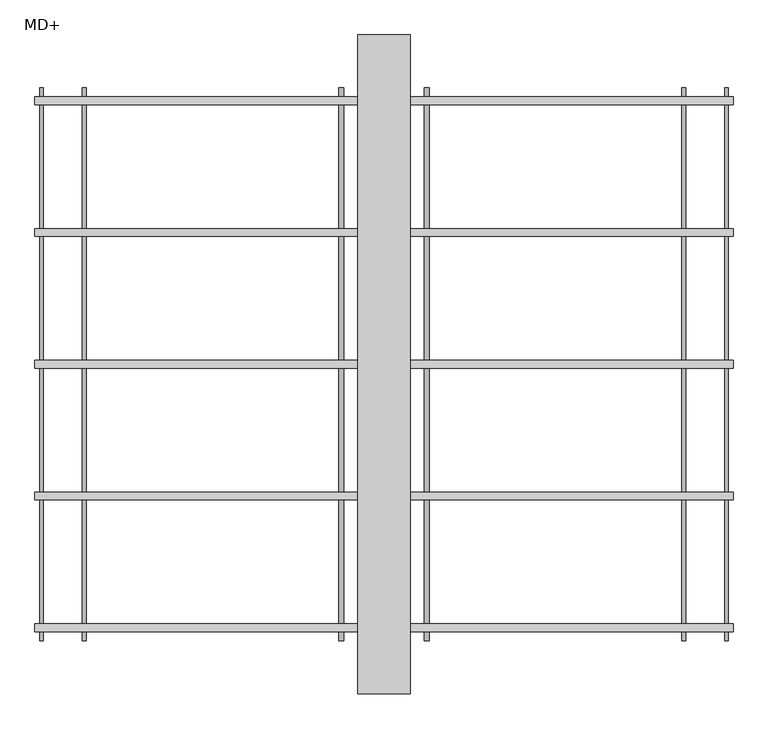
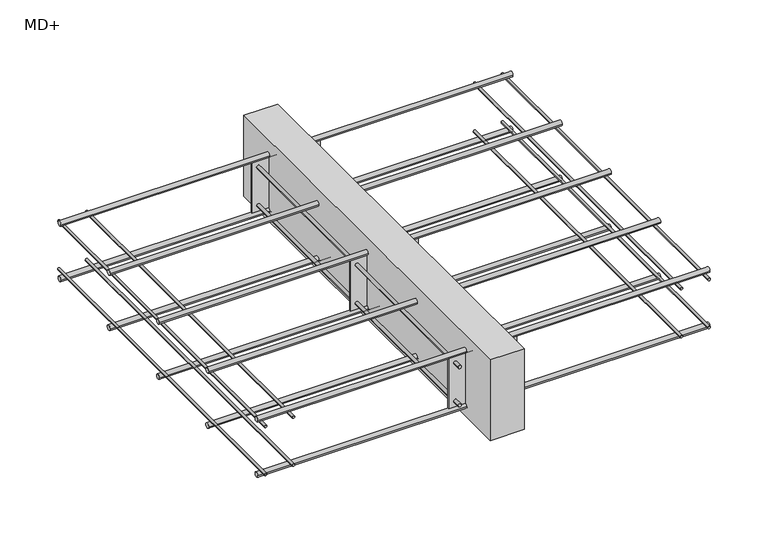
"""IFC4 building model written with IfcOpenShell, lengths in millimetres: proxy geometry, ACINOXplus_Typenreihe_M : MD+."""

from ifc_helpers import new_model, si_unit, point, frame, frame_2d, origin, place, context, project, spatial, polyline, circle_curve, trimmed, segment, composite_curve, outline, extrude, source, transform, mapped, element, save


def md_5e9233df(model_context):
    return source(origin(), model_context, "Body", "SweptSolid", [
        extrude(outline(polyline([(40.0, 500.0), (40.0, -500.0), (-40.0, -500.0), (-40.0, 500.0), (40.0, 500.0)])), frame((0.0, 0.0, -200.0), z_axis=(0.0, 0.0, 1.0), x_axis=(1.0, 0.0, 0.0)), (0.0, 0.0, 1.0), 200.0),
        extrude(outline(polyline([(80.0, 1.5), (80.0, -1.5), (-80.0, -1.5), (-80.0, 1.5), (80.0, 1.5)])), frame((0.0, 0.0, -167.0), z_axis=(0.0, 0.0, 1.0), x_axis=(1.0, 0.0, 0.0)), (0.0, 0.0, 1.0), 125.0),
        extrude(outline(polyline([(80.0, -398.5), (80.0, -401.5), (-80.0, -401.5), (-80.0, -398.5), (80.0, -398.5)])), frame((0.0, 0.0, -167.0), z_axis=(0.0, 0.0, 1.0), x_axis=(1.0, 0.0, 0.0)), (0.0, 0.0, 1.0), 125.0),
        extrude(outline(polyline([(80.0, 401.5), (80.0, 398.5), (-80.0, 398.5), (-80.0, 401.5), (80.0, 401.5)])), frame((0.0, 0.0, -167.0), z_axis=(0.0, 0.0, 1.0), x_axis=(1.0, 0.0, 0.0)), (0.0, 0.0, 1.0), 125.0),
        extrude(outline(composite_curve([segment(trimmed(circle_curve(frame_2d((-152.0, -65.0)), 4.0), [point((-152.0, -61.0))], [point((-152.0, -69.0))], False, "CARTESIAN"), True, "CONTINUOUS"), segment(trimmed(circle_curve(frame_2d((-152.0, -65.0)), 4.0), [point((-152.0, -69.0))], [point((-152.0, -61.0))], False, "CARTESIAN"), True, "CONTINUOUS")], self_intersect=False)), frame((0.0, -420.0, 0.0), z_axis=(0.0, 1.0, 0.0), x_axis=(0.0, 0.0, 1.0)), (0.0, 0.0, 1.0), 18.5),
        extrude(outline(composite_curve([segment(trimmed(circle_curve(frame_2d((-152.0, -65.0)), 4.0), [point((-152.0, -69.0))], [point((-152.0, -61.0))], False, "CARTESIAN"), True, "CONTINUOUS"), segment(trimmed(circle_curve(frame_2d((-152.0, -65.0)), 4.0), [point((-152.0, -61.0))], [point((-152.0, -69.0))], False, "CARTESIAN"), True, "CONTINUOUS")], self_intersect=False)), frame((0.0, -398.5, 0.0), z_axis=(0.0, 1.0, 0.0), x_axis=(0.0, 0.0, 1.0)), (0.0, 0.0, 1.0), 397.0),
        extrude(outline(composite_curve([segment(trimmed(circle_curve(frame_2d((-152.0, -65.0)), 4.0), [point((-152.0, -69.0))], [point((-152.0, -61.0))], False, "CARTESIAN"), True, "CONTINUOUS"), segment(trimmed(circle_curve(frame_2d((-152.0, -65.0)), 4.0), [point((-152.0, -61.0))], [point((-152.0, -69.0))], False, "CARTESIAN"), True, "CONTINUOUS")], self_intersect=False)), frame((0.0, 401.5, 0.0), z_axis=(0.0, 1.0, 0.0), x_axis=(0.0, 0.0, 1.0)), (0.0, 0.0, 1.0), 18.5),
        extrude(outline(composite_curve([segment(trimmed(circle_curve(frame_2d((-152.0, -65.0)), 4.0), [point((-152.0, -69.0))], [point((-152.0, -61.0))], False, "CARTESIAN"), True, "CONTINUOUS"), segment(trimmed(circle_curve(frame_2d((-152.0, -65.0)), 4.0), [point((-152.0, -61.0))], [point((-152.0, -69.0))], False, "CARTESIAN"), True, "CONTINUOUS")], self_intersect=False)), frame((0.0, 1.5, 0.0), z_axis=(0.0, 1.0, 0.0), x_axis=(0.0, 0.0, 1.0)), (0.0, 0.0, 1.0), 397.0),
        extrude(outline(composite_curve([segment(trimmed(circle_curve(frame_2d((-152.0, 65.0)), 4.0), [point((-152.0, 69.0))], [point((-152.0, 61.0))], False, "CARTESIAN"), True, "CONTINUOUS"), segment(trimmed(circle_curve(frame_2d((-152.0, 65.0)), 4.0), [point((-152.0, 61.0))], [point((-152.0, 69.0))], False, "CARTESIAN"), True, "CONTINUOUS")], self_intersect=False)), frame((0.0, -420.0, 0.0), z_axis=(0.0, 1.0, 0.0), x_axis=(0.0, 0.0, 1.0)), (0.0, 0.0, 1.0), 18.5),
        extrude(outline(composite_curve([segment(trimmed(circle_curve(frame_2d((-152.0, 65.0)), 4.0), [point((-152.0, 61.0))], [point((-152.0, 69.0))], False, "CARTESIAN"), True, "CONTINUOUS"), segment(trimmed(circle_curve(frame_2d((-152.0, 65.0)), 4.0), [point((-152.0, 69.0))], [point((-152.0, 61.0))], False, "CARTESIAN"), True, "CONTINUOUS")], self_intersect=False)), frame((0.0, -398.5, 0.0), z_axis=(0.0, 1.0, 0.0), x_axis=(0.0, 0.0, 1.0)), (0.0, 0.0, 1.0), 397.0),
        extrude(outline(composite_curve([segment(trimmed(circle_curve(frame_2d((-152.0, 65.0)), 4.0), [point((-152.0, 61.0))], [point((-152.0, 69.0))], False, "CARTESIAN"), True, "CONTINUOUS"), segment(trimmed(circle_curve(frame_2d((-152.0, 65.0)), 4.0), [point((-152.0, 69.0))], [point((-152.0, 61.0))], False, "CARTESIAN"), True, "CONTINUOUS")], self_intersect=False)), frame((0.0, 401.5, 0.0), z_axis=(0.0, 1.0, 0.0), x_axis=(0.0, 0.0, 1.0)), (0.0, 0.0, 1.0), 18.5),
        extrude(outline(composite_curve([segment(trimmed(circle_curve(frame_2d((-152.0, 65.0)), 4.0), [point((-152.0, 61.0))], [point((-152.0, 69.0))], False, "CARTESIAN"), True, "CONTINUOUS"), segment(trimmed(circle_curve(frame_2d((-152.0, 65.0)), 4.0), [point((-152.0, 69.0))], [point((-152.0, 61.0))], False, "CARTESIAN"), True, "CONTINUOUS")], self_intersect=False)), frame((0.0, 1.5, 0.0), z_axis=(0.0, 1.0, 0.0), x_axis=(0.0, 0.0, 1.0)), (0.0, 0.0, 1.0), 397.0),
        extrude(outline(composite_curve([segment(trimmed(circle_curve(frame_2d((-57.0, -65.0)), 4.0), [point((-57.0, -61.0))], [point((-57.0, -69.0))], False, "CARTESIAN"), True, "CONTINUOUS"), segment(trimmed(circle_curve(frame_2d((-57.0, -65.0)), 4.0), [point((-57.0, -69.0))], [point((-57.0, -61.0))], False, "CARTESIAN"), True, "CONTINUOUS")], self_intersect=False)), frame((0.0, -420.0, 0.0), z_axis=(0.0, 1.0, 0.0), x_axis=(0.0, 0.0, 1.0)), (0.0, 0.0, 1.0), 18.5),
        extrude(outline(composite_curve([segment(trimmed(circle_curve(frame_2d((-57.0, -65.0)), 4.0), [point((-57.0, -69.0))], [point((-57.0, -61.0))], False, "CARTESIAN"), True, "CONTINUOUS"), segment(trimmed(circle_curve(frame_2d((-57.0, -65.0)), 4.0), [point((-57.0, -61.0))], [point((-57.0, -69.0))], False, "CARTESIAN"), True, "CONTINUOUS")], self_intersect=False)), frame((0.0, -398.5, 0.0), z_axis=(0.0, 1.0, 0.0), x_axis=(0.0, 0.0, 1.0)), (0.0, 0.0, 1.0), 397.0),
        extrude(outline(composite_curve([segment(trimmed(circle_curve(frame_2d((-57.0, -65.0)), 4.0), [point((-57.0, -69.0))], [point((-57.0, -61.0))], False, "CARTESIAN"), True, "CONTINUOUS"), segment(trimmed(circle_curve(frame_2d((-57.0, -65.0)), 4.0), [point((-57.0, -61.0))], [point((-57.0, -69.0))], False, "CARTESIAN"), True, "CONTINUOUS")], self_intersect=False)), frame((0.0, 401.5, 0.0), z_axis=(0.0, 1.0, 0.0), x_axis=(0.0, 0.0, 1.0)), (0.0, 0.0, 1.0), 18.5),
        extrude(outline(composite_curve([segment(trimmed(circle_curve(frame_2d((-57.0, -65.0)), 4.0), [point((-57.0, -69.0))], [point((-57.0, -61.0))], False, "CARTESIAN"), True, "CONTINUOUS"), segment(trimmed(circle_curve(frame_2d((-57.0, -65.0)), 4.0), [point((-57.0, -61.0))], [point((-57.0, -69.0))], False, "CARTESIAN"), True, "CONTINUOUS")], self_intersect=False)), frame((0.0, 1.5, 0.0), z_axis=(0.0, 1.0, 0.0), x_axis=(0.0, 0.0, 1.0)), (0.0, 0.0, 1.0), 397.0),
        extrude(outline(composite_curve([segment(trimmed(circle_curve(frame_2d((-57.0, 65.0)), 4.0), [point((-57.0, 69.0))], [point((-57.0, 61.0))], False, "CARTESIAN"), True, "CONTINUOUS"), segment(trimmed(circle_curve(frame_2d((-57.0, 65.0)), 4.0), [point((-57.0, 61.0))], [point((-57.0, 69.0))], False, "CARTESIAN"), True, "CONTINUOUS")], self_intersect=False)), frame((0.0, -420.0, 0.0), z_axis=(0.0, 1.0, 0.0), x_axis=(0.0, 0.0, 1.0)), (0.0, 0.0, 1.0), 18.5),
        extrude(outline(composite_curve([segment(trimmed(circle_curve(frame_2d((-57.0, 65.0)), 4.0), [point((-57.0, 61.0))], [point((-57.0, 69.0))], False, "CARTESIAN"), True, "CONTINUOUS"), segment(trimmed(circle_curve(frame_2d((-57.0, 65.0)), 4.0), [point((-57.0, 69.0))], [point((-57.0, 61.0))], False, "CARTESIAN"), True, "CONTINUOUS")], self_intersect=False)), frame((0.0, -398.5, 0.0), z_axis=(0.0, 1.0, 0.0), x_axis=(0.0, 0.0, 1.0)), (0.0, 0.0, 1.0), 397.0),
        extrude(outline(composite_curve([segment(trimmed(circle_curve(frame_2d((-57.0, 65.0)), 4.0), [point((-57.0, 61.0))], [point((-57.0, 69.0))], False, "CARTESIAN"), True, "CONTINUOUS"), segment(trimmed(circle_curve(frame_2d((-57.0, 65.0)), 4.0), [point((-57.0, 69.0))], [point((-57.0, 61.0))], False, "CARTESIAN"), True, "CONTINUOUS")], self_intersect=False)), frame((0.0, 401.5, 0.0), z_axis=(0.0, 1.0, 0.0), x_axis=(0.0, 0.0, 1.0)), (0.0, 0.0, 1.0), 18.5),
        extrude(outline(composite_curve([segment(trimmed(circle_curve(frame_2d((-57.0, 65.0)), 4.0), [point((-57.0, 61.0))], [point((-57.0, 69.0))], False, "CARTESIAN"), True, "CONTINUOUS"), segment(trimmed(circle_curve(frame_2d((-57.0, 65.0)), 4.0), [point((-57.0, 69.0))], [point((-57.0, 61.0))], False, "CARTESIAN"), True, "CONTINUOUS")], self_intersect=False)), frame((0.0, 1.5, 0.0), z_axis=(0.0, 1.0, 0.0), x_axis=(0.0, 0.0, 1.0)), (0.0, 0.0, 1.0), 397.0),
        extrude(outline(composite_curve([segment(trimmed(circle_curve(frame_2d((0.0, -173.0)), 6.0), [point((-6.0, -173.0))], [point((6.0, -173.0))], False, "CARTESIAN"), True, "CONTINUOUS"), segment(trimmed(circle_curve(frame_2d((0.0, -173.0)), 6.0), [point((6.0, -173.0))], [point((-6.0, -173.0))], False, "CARTESIAN"), True, "CONTINUOUS")], self_intersect=False)), frame((-530.0, 0.0, 0.0), z_axis=(1.0, 0.0, 0.0), x_axis=(0.0, 1.0, 0.0)), (0.0, 0.0, 1.0), 1060.0),
        extrude(outline(composite_curve([segment(trimmed(circle_curve(frame_2d((200.0, -173.0)), 6.0), [point((194.0, -173.0))], [point((206.0, -173.0))], False, "CARTESIAN"), True, "CONTINUOUS"), segment(trimmed(circle_curve(frame_2d((200.0, -173.0)), 6.0), [point((206.0, -173.0))], [point((194.0, -173.0))], False, "CARTESIAN"), True, "CONTINUOUS")], self_intersect=False)), frame((-530.0, 0.0, 0.0), z_axis=(1.0, 0.0, 0.0), x_axis=(0.0, 1.0, 0.0)), (0.0, 0.0, 1.0), 1060.0),
        extrude(outline(composite_curve([segment(trimmed(circle_curve(frame_2d((400.0, -173.0)), 6.0), [point((394.0, -173.0))], [point((406.0, -173.0))], False, "CARTESIAN"), True, "CONTINUOUS"), segment(trimmed(circle_curve(frame_2d((400.0, -173.0)), 6.0), [point((406.0, -173.0))], [point((394.0, -173.0))], False, "CARTESIAN"), True, "CONTINUOUS")], self_intersect=False)), frame((-530.0, 0.0, 0.0), z_axis=(1.0, 0.0, 0.0), x_axis=(0.0, 1.0, 0.0)), (0.0, 0.0, 1.0), 1060.0),
        extrude(outline(composite_curve([segment(trimmed(circle_curve(frame_2d((-200.0, -173.0)), 6.0), [point((-206.0, -173.0))], [point((-194.0, -173.0))], False, "CARTESIAN"), True, "CONTINUOUS"), segment(trimmed(circle_curve(frame_2d((-200.0, -173.0)), 6.0), [point((-194.0, -173.0))], [point((-206.0, -173.0))], False, "CARTESIAN"), True, "CONTINUOUS")], self_intersect=False)), frame((-530.0, 0.0, 0.0), z_axis=(1.0, 0.0, 0.0), x_axis=(0.0, 1.0, 0.0)), (0.0, 0.0, 1.0), 1060.0),
        extrude(outline(composite_curve([segment(trimmed(circle_curve(frame_2d((-400.0, -173.0)), 6.0), [point((-406.0, -173.0))], [point((-394.0, -173.0))], False, "CARTESIAN"), True, "CONTINUOUS"), segment(trimmed(circle_curve(frame_2d((-400.0, -173.0)), 6.0), [point((-394.0, -173.0))], [point((-406.0, -173.0))], False, "CARTESIAN"), True, "CONTINUOUS")], self_intersect=False)), frame((-530.0, 0.0, 0.0), z_axis=(1.0, 0.0, 0.0), x_axis=(0.0, 1.0, 0.0)), (0.0, 0.0, 1.0), 1060.0),
        extrude(outline(composite_curve([segment(trimmed(circle_curve(frame_2d((0.0, -36.0)), 6.0), [point((-6.0, -36.0))], [point((6.0, -36.0))], False, "CARTESIAN"), True, "CONTINUOUS"), segment(trimmed(circle_curve(frame_2d((0.0, -36.0)), 6.0), [point((6.0, -36.0))], [point((-6.0, -36.0))], False, "CARTESIAN"), True, "CONTINUOUS")], self_intersect=False)), frame((-530.0, 0.0, 0.0), z_axis=(1.0, 0.0, 0.0), x_axis=(0.0, 1.0, 0.0)), (0.0, 0.0, 1.0), 1060.0),
        extrude(outline(composite_curve([segment(trimmed(circle_curve(frame_2d((200.0, -36.0)), 6.0), [point((194.0, -36.0))], [point((206.0, -36.0))], False, "CARTESIAN"), True, "CONTINUOUS"), segment(trimmed(circle_curve(frame_2d((200.0, -36.0)), 6.0), [point((206.0, -36.0))], [point((194.0, -36.0))], False, "CARTESIAN"), True, "CONTINUOUS")], self_intersect=False)), frame((-530.0, 0.0, 0.0), z_axis=(1.0, 0.0, 0.0), x_axis=(0.0, 1.0, 0.0)), (0.0, 0.0, 1.0), 1060.0),
        extrude(outline(composite_curve([segment(trimmed(circle_curve(frame_2d((400.0, -36.0)), 6.0), [point((394.0, -36.0))], [point((406.0, -36.0))], False, "CARTESIAN"), True, "CONTINUOUS"), segment(trimmed(circle_curve(frame_2d((400.0, -36.0)), 6.0), [point((406.0, -36.0))], [point((394.0, -36.0))], False, "CARTESIAN"), True, "CONTINUOUS")], self_intersect=False)), frame((-530.0, 0.0, 0.0), z_axis=(1.0, 0.0, 0.0), x_axis=(0.0, 1.0, 0.0)), (0.0, 0.0, 1.0), 1060.0),
        extrude(outline(composite_curve([segment(trimmed(circle_curve(frame_2d((-200.0, -36.0)), 6.0), [point((-206.0, -36.0))], [point((-194.0, -36.0))], False, "CARTESIAN"), True, "CONTINUOUS"), segment(trimmed(circle_curve(frame_2d((-200.0, -36.0)), 6.0), [point((-194.0, -36.0))], [point((-206.0, -36.0))], False, "CARTESIAN"), True, "CONTINUOUS")], self_intersect=False)), frame((-530.0, 0.0, 0.0), z_axis=(1.0, 0.0, 0.0), x_axis=(0.0, 1.0, 0.0)), (0.0, 0.0, 1.0), 1060.0),
        extrude(outline(composite_curve([segment(trimmed(circle_curve(frame_2d((-400.0, -36.0)), 6.0), [point((-406.0, -36.0))], [point((-394.0, -36.0))], False, "CARTESIAN"), True, "CONTINUOUS"), segment(trimmed(circle_curve(frame_2d((-400.0, -36.0)), 6.0), [point((-394.0, -36.0))], [point((-406.0, -36.0))], False, "CARTESIAN"), True, "CONTINUOUS")], self_intersect=False)), frame((-530.0, 0.0, 0.0), z_axis=(1.0, 0.0, 0.0), x_axis=(0.0, 1.0, 0.0)), (0.0, 0.0, 1.0), 1060.0),
        extrude(outline(composite_curve([segment(trimmed(circle_curve(frame_2d((-164.0, -520.0)), 3.0), [point((-164.0, -517.0))], [point((-164.0, -523.0))], False, "CARTESIAN"), True, "CONTINUOUS"), segment(trimmed(circle_curve(frame_2d((-164.0, -520.0)), 3.0), [point((-164.0, -523.0))], [point((-164.0, -517.0))], False, "CARTESIAN"), True, "CONTINUOUS")], self_intersect=False)), frame((0.0, -420.0, 0.0), z_axis=(0.0, 1.0, 0.0), x_axis=(0.0, 0.0, 1.0)), (0.0, 0.0, 1.0), 840.0),
        extrude(outline(composite_curve([segment(trimmed(circle_curve(frame_2d((-164.0, -455.0)), 3.0), [point((-164.0, -452.0))], [point((-164.0, -458.0))], False, "CARTESIAN"), True, "CONTINUOUS"), segment(trimmed(circle_curve(frame_2d((-164.0, -455.0)), 3.0), [point((-164.0, -458.0))], [point((-164.0, -452.0))], False, "CARTESIAN"), True, "CONTINUOUS")], self_intersect=False)), frame((0.0, -420.0, 0.0), z_axis=(0.0, 1.0, 0.0), x_axis=(0.0, 0.0, 1.0)), (0.0, 0.0, 1.0), 840.0),
        extrude(outline(composite_curve([segment(trimmed(circle_curve(frame_2d((-164.0, 455.0)), 3.0), [point((-164.0, 458.0))], [point((-164.0, 452.0))], False, "CARTESIAN"), True, "CONTINUOUS"), segment(trimmed(circle_curve(frame_2d((-164.0, 455.0)), 3.0), [point((-164.0, 452.0))], [point((-164.0, 458.0))], False, "CARTESIAN"), True, "CONTINUOUS")], self_intersect=False)), frame((0.0, -420.0, 0.0), z_axis=(0.0, 1.0, 0.0), x_axis=(0.0, 0.0, 1.0)), (0.0, 0.0, 1.0), 840.0),
        extrude(outline(composite_curve([segment(trimmed(circle_curve(frame_2d((-164.0, 520.0)), 3.0), [point((-164.0, 523.0))], [point((-164.0, 517.0))], False, "CARTESIAN"), True, "CONTINUOUS"), segment(trimmed(circle_curve(frame_2d((-164.0, 520.0)), 3.0), [point((-164.0, 517.0))], [point((-164.0, 523.0))], False, "CARTESIAN"), True, "CONTINUOUS")], self_intersect=False)), frame((0.0, -420.0, 0.0), z_axis=(0.0, 1.0, 0.0), x_axis=(0.0, 0.0, 1.0)), (0.0, 0.0, 1.0), 840.0),
        extrude(outline(composite_curve([segment(trimmed(circle_curve(frame_2d((-45.0, 455.0)), 3.0), [point((-45.0, 458.0))], [point((-45.0, 452.0))], False, "CARTESIAN"), True, "CONTINUOUS"), segment(trimmed(circle_curve(frame_2d((-45.0, 455.0)), 3.0), [point((-45.0, 452.0))], [point((-45.0, 458.0))], False, "CARTESIAN"), True, "CONTINUOUS")], self_intersect=False)), frame((0.0, -420.0, 0.0), z_axis=(0.0, 1.0, 0.0), x_axis=(0.0, 0.0, 1.0)), (0.0, 0.0, 1.0), 840.0),
        extrude(outline(composite_curve([segment(trimmed(circle_curve(frame_2d((-45.0, 520.0)), 3.0), [point((-45.0, 523.0))], [point((-45.0, 517.0))], False, "CARTESIAN"), True, "CONTINUOUS"), segment(trimmed(circle_curve(frame_2d((-45.0, 520.0)), 3.0), [point((-45.0, 517.0))], [point((-45.0, 523.0))], False, "CARTESIAN"), True, "CONTINUOUS")], self_intersect=False)), frame((0.0, -420.0, 0.0), z_axis=(0.0, 1.0, 0.0), x_axis=(0.0, 0.0, 1.0)), (0.0, 0.0, 1.0), 840.0),
        extrude(outline(composite_curve([segment(trimmed(circle_curve(frame_2d((-45.0, -520.0)), 3.0), [point((-45.0, -517.0))], [point((-45.0, -523.0))], False, "CARTESIAN"), True, "CONTINUOUS"), segment(trimmed(circle_curve(frame_2d((-45.0, -520.0)), 3.0), [point((-45.0, -523.0))], [point((-45.0, -517.0))], False, "CARTESIAN"), True, "CONTINUOUS")], self_intersect=False)), frame((0.0, -420.0, 0.0), z_axis=(0.0, 1.0, 0.0), x_axis=(0.0, 0.0, 1.0)), (0.0, 0.0, 1.0), 840.0),
        extrude(outline(composite_curve([segment(trimmed(circle_curve(frame_2d((-45.0, -455.0)), 3.0), [point((-45.0, -452.0))], [point((-45.0, -458.0))], False, "CARTESIAN"), True, "CONTINUOUS"), segment(trimmed(circle_curve(frame_2d((-45.0, -455.0)), 3.0), [point((-45.0, -458.0))], [point((-45.0, -452.0))], False, "CARTESIAN"), True, "CONTINUOUS")], self_intersect=False)), frame((0.0, -420.0, 0.0), z_axis=(0.0, 1.0, 0.0), x_axis=(0.0, 0.0, 1.0)), (0.0, 0.0, 1.0), 840.0),
    ])


if __name__ == "__main__":
    model = new_model("IFC4")
    model_context = context("Model", 3, world=origin())
    ifc_project = project(units=[si_unit("LENGTHUNIT", "METRE", prefix="MILLI")], contexts=[model_context])
    site = spatial("IfcSite", under=ifc_project)
    building = spatial("IfcBuilding", under=site)
    placement = place(None, origin())
    md_shape = md_5e9233df(model_context)
    element("IfcBuildingElementProxy", 1, Name="ACINOXplus_Typenreihe_M : MD+", ObjectType="ACINOXplus_Typenreihe_M : MD+", at=placement, inside=building, context=model_context, shape_type="MappedRepresentation", body=[
        mapped(md_shape, transform((0.0, 0.0, 0.0), x_axis=(1.0, 0.0, 0.0), y_axis=(0.0, 1.0, 0.0), z_axis=(0.0, 0.0, 1.0))),
    ])
    save(model, "model.ifc")
